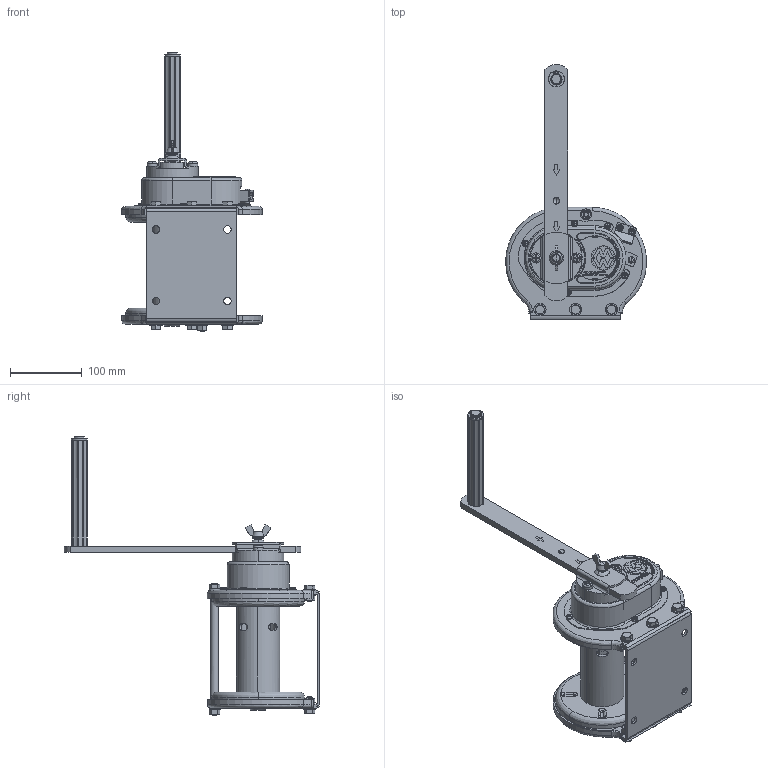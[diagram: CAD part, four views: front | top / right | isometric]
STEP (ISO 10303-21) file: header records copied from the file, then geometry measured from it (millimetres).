
FILE_DESCRIPTION( (''), '2;1');
FILE_NAME ('GM-1.stp','2023-12-20T16:45:56',(''),(''),'spGate 19.8.2 (****-****-****-****)','','');
FILE_SCHEMA (('AUTOMOTIVE_DESIGN'));
Length unit declared in the file: millimetre
Products named in the file (4): Assembly; GM-1-prt0; GM-1-prt1; GM-1-prt2
Assembly tree (3 placements, depth 2):
  Assembly
    GM-1-prt0
    GM-1-prt1
    GM-1-prt2
Bounding box: 196.82 x 356.93 x 389.8 mm (x, y, z)
Volume: 1004949.2 mm3; surface area: 436360.1 mm2
Topology: 2 solids, 2 shells, 2249 faces, 5866 edges, 3695 vertices
Faces by surface type: plane 1057, cylinder 779, bspline 349, sphere 64
Entity records: 121045 total; most frequent: CARTESIAN_POINT 21451, ORIENTED_EDGE 11600, DIRECTION 10773, COLOUR_RGB 8052, PRESENTATION_STYLE_ASSIGNMENT 8052, STYLED_ITEM 8052, EDGE_CURVE 5800, DRAUGHTING_PRE_DEFINED_CURVE_FONT 5800
